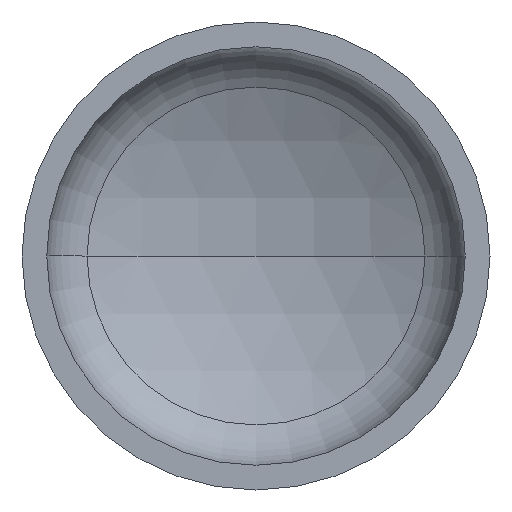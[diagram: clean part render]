
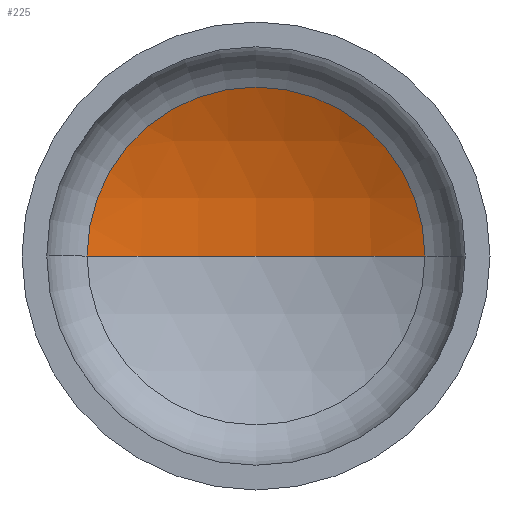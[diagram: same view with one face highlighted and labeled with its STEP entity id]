
A CAD part, front view. The second image highlights one B-rep face of the part: STEP entity #225.
In plain terms, the highlighted spherical face has radius 560 mm.
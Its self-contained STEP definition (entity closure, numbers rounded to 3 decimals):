
#39 = VERTEX_POINT ( 'NONE', #302 ) ;
#40 = AXIS2_PLACEMENT_3D ( 'NONE', #186, #261, #192 ) ;
#42 = ORIENTED_EDGE ( 'NONE', *, *, #154, .F. ) ;
#48 = DIRECTION ( 'NONE',  ( 0., -1., 0. ) ) ;
#56 = AXIS2_PLACEMENT_3D ( 'NONE', #290, #281, #297 ) ;
#61 = AXIS2_PLACEMENT_3D ( 'NONE', #219, #234, #227 ) ;
#62 = AXIS2_PLACEMENT_3D ( 'NONE', #72, #48, #249 ) ;
#72 = CARTESIAN_POINT ( 'NONE',  ( 0., 218.171, 0. ) ) ;
#101 = VERTEX_POINT ( 'NONE', #326 ) ;
#140 = EDGE_CURVE ( 'NONE', #101, #144, #367, .T. ) ;
#144 = VERTEX_POINT ( 'NONE', #298 ) ;
#145 = EDGE_CURVE ( 'NONE', #39, #101, #171, .T. ) ;
#154 = EDGE_CURVE ( 'NONE', #39, #144, #238, .T. ) ;
#164 = ORIENTED_EDGE ( 'NONE', *, *, #145, .T. ) ;
#171 = CIRCLE ( 'NONE', #61, 560. ) ;
#186 = CARTESIAN_POINT ( 'NONE',  ( 0., -281.611, 0. ) ) ;
#192 = DIRECTION ( 'NONE',  ( -1., 0., 0. ) ) ;
#219 = CARTESIAN_POINT ( 'NONE',  ( 0., -281.611, 0. ) ) ;
#225 = ADVANCED_FACE ( 'NONE', ( #347 ), #355, .F. ) ;
#227 = DIRECTION ( 'NONE',  ( -1., 0., 0. ) ) ;
#234 = DIRECTION ( 'NONE',  ( 0., 0., -1. ) ) ;
#238 = CIRCLE ( 'NONE', #56, 560. ) ;
#249 = DIRECTION ( 'NONE',  ( 1., 0., 0. ) ) ;
#261 = DIRECTION ( 'NONE',  ( 0., 0., -1. ) ) ;
#281 = DIRECTION ( 'NONE',  ( 0., 0., 1. ) ) ;
#288 = EDGE_LOOP ( 'NONE', ( #42, #164, #399 ) ) ;
#290 = CARTESIAN_POINT ( 'NONE',  ( 0., -281.611, 0. ) ) ;
#297 = DIRECTION ( 'NONE',  ( 1., 0., 0. ) ) ;
#298 = CARTESIAN_POINT ( 'NONE',  ( -252.622, 218.171, 0. ) ) ;
#302 = CARTESIAN_POINT ( 'NONE',  ( 0., 278.389, 0. ) ) ;
#326 = CARTESIAN_POINT ( 'NONE',  ( 252.622, 218.171, 0. ) ) ;
#347 = FACE_OUTER_BOUND ( 'NONE', #288, .T. ) ;
#355 = SPHERICAL_SURFACE ( 'NONE', #40, 560. ) ;
#367 = CIRCLE ( 'NONE', #62, 252.622 ) ;
#399 = ORIENTED_EDGE ( 'NONE', *, *, #140, .T. ) ;
